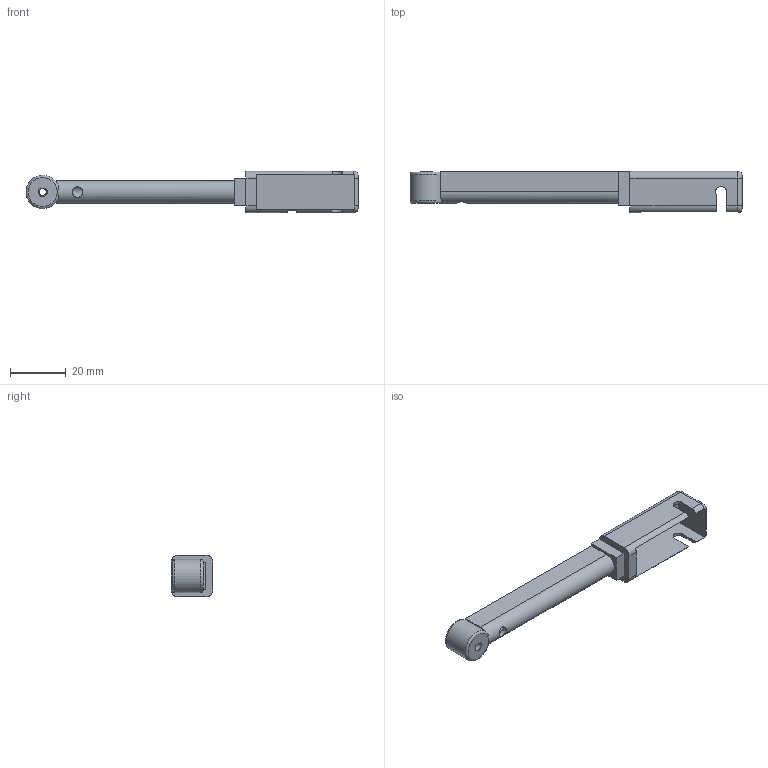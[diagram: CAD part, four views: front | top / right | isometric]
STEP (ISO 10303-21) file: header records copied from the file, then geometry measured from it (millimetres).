
FILE_DESCRIPTION(('Open CASCADE Model'),'2;1');
FILE_NAME('Open CASCADE Shape Model','2026-11-07T04:41:28',('Author'),( 'Open CASCADE'),'Open CASCADE STEP processor 8.0','build123d', 'Unknown');
FILE_SCHEMA(('AUTOMOTIVE_DESIGN { 1 0 10303 214 1 1 1 1 }'));
Length unit declared in the file: millimetre
Products named in the file (1): COMPOUND
Bounding box: 119.24 x 15.01 x 15 mm (x, y, z)
Volume: 8372 mm3; surface area: 7886 mm2
Topology: 1 solids, 1 shells, 58 faces, 153 edges, 99 vertices
Faces by surface type: plane 33, cylinder 19, revolution 4, torus 2
Full cylindrical faces by diameter (mm): 2.5 x1, 3.8 x1, 4.4 x1, 4.6 x1
Entity records: 5630 total; most frequent: CARTESIAN_POINT 2752, DIRECTION 480, ORIENTED_EDGE 306, PCURVE 306, DEFINITIONAL_REPRESENTATION 306, LINE 247, VECTOR 247, EDGE_CURVE 153
